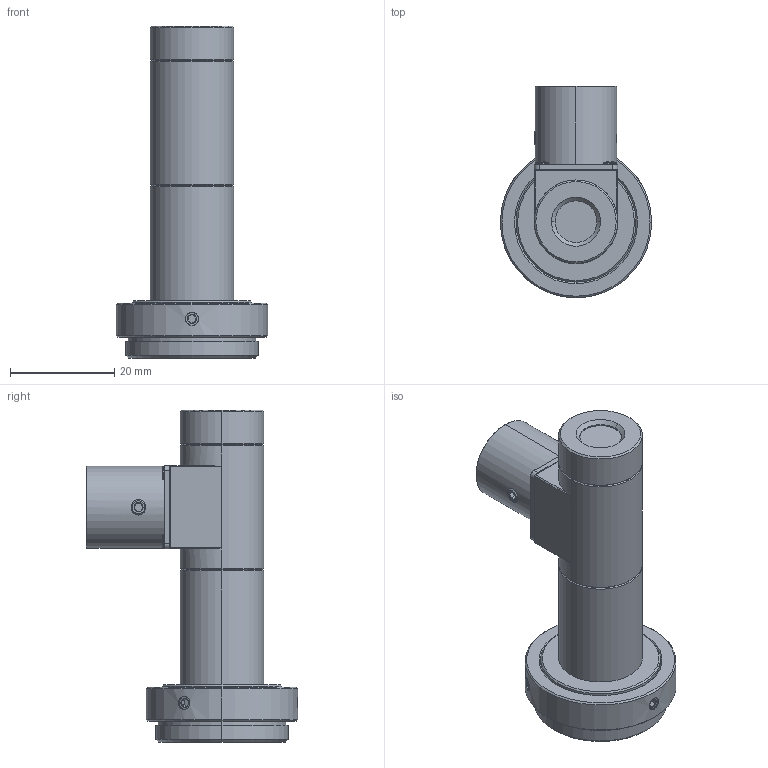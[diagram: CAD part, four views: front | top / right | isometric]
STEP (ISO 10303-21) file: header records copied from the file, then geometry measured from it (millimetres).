
FILE_DESCRIPTION (( 'STEP AP203' ), '1' );
FILE_NAME ('MML6-ST40D_A03749A0100101A-001.STEP', '2013-12-11T09:25:10', ( 'SCHOTT' ), ( 'SCHOTT' ), 'SwSTEP 2.0', 'SolidWorks 2011', '' );
FILE_SCHEMA (( 'CONFIG_CONTROL_DESIGN' ));
Length unit declared in the file: millimetre
Products named in the file (1): MML6-ST40D_A03749A0100101A-001
Bounding box: 29 x 40.5 x 63.64 mm (x, y, z)
Volume: 16411.1 mm3; surface area: 8293.8 mm2
Topology: 1 solids, 5 shells, 414 faces, 976 edges, 589 vertices
Faces by surface type: plane 172, cone 144, cylinder 74, torus 16, sphere 8
Entity records: 12416 total; most frequent: CARTESIAN_POINT 2885, DIRECTION 2069, ORIENTED_EDGE 1936, EDGE_CURVE 968, AXIS2_PLACEMENT_3D 859, VERTEX_POINT 589, EDGE_LOOP 449, CIRCLE 444
